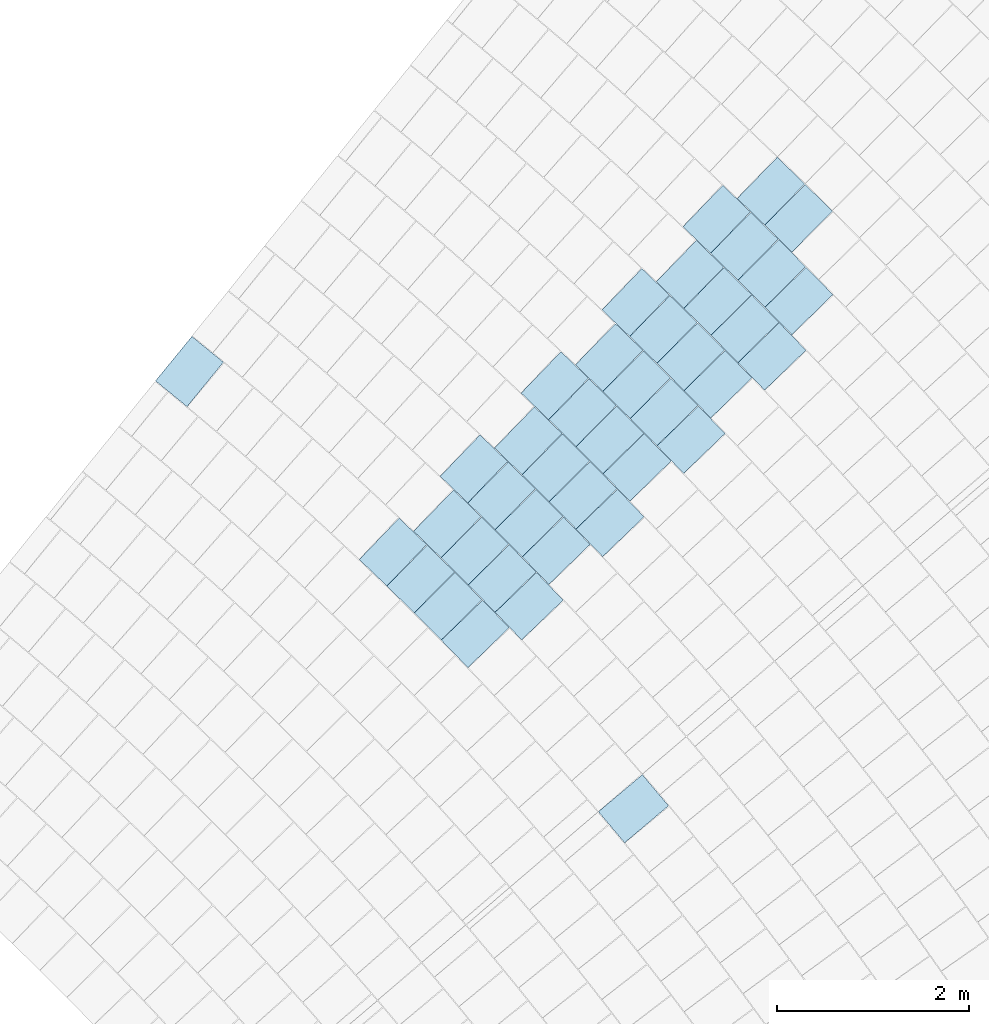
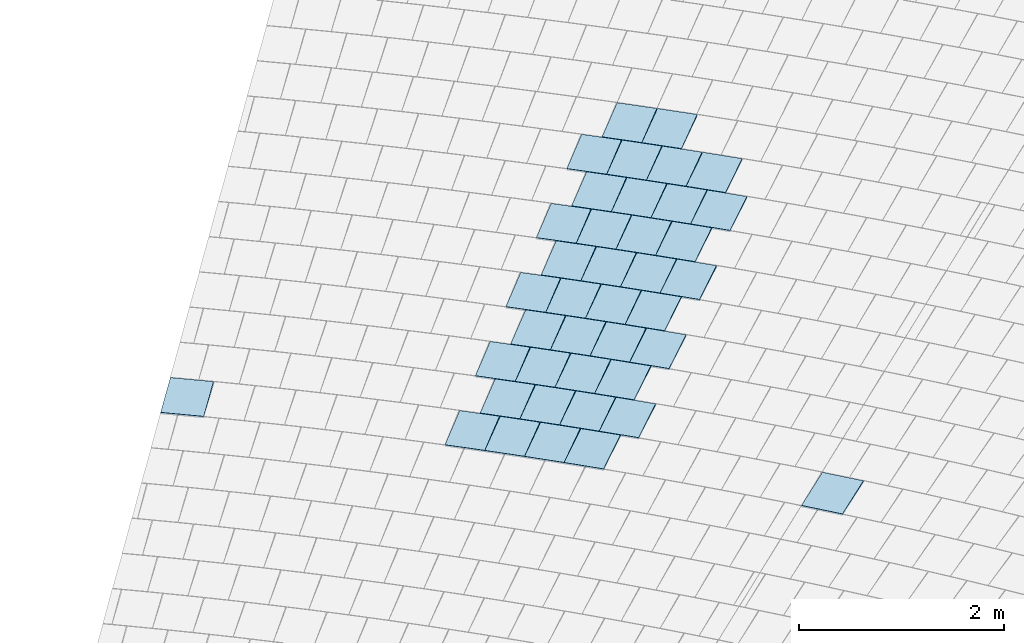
# One storey, part 13 of 438: 40 slabs.
"""IFC2X3 building model written with IfcOpenShell, lengths in millimetres."""

from ifc_helpers import new_model, entity, si_unit, converted_unit, derived_unit, direction, frame, origin, place, context, subcontext, project, spatial, polyline, outline, extrude, material, layer, layer_set, layer_usage, type_object, element, save


model = new_model("IFC2X3")

# Units and contexts
model_context = context("Model", 3, precision=0.01, world=origin(), true_north=direction((6.123031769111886e-17, 1.0)))
body_context = subcontext(model_context, "Body", "Model", "MODEL_VIEW")
ifc_project = project(units=[si_unit("LENGTHUNIT", "METRE", prefix="MILLI"), si_unit("AREAUNIT", "SQUARE_METRE"), si_unit("VOLUMEUNIT", "CUBIC_METRE"), converted_unit("PLANEANGLEUNIT", "DEGREE", entity("IfcRatioMeasure", 0.017453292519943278), si_unit("PLANEANGLEUNIT", "RADIAN"), dimensions=[0, 0, 0, 0, 0, 0, 0]), si_unit("MASSUNIT", "GRAM", prefix="KILO"), derived_unit("MASSDENSITYUNIT", [(si_unit("MASSUNIT", "GRAM", prefix="KILO"), 1), (si_unit("LENGTHUNIT", "METRE"), -3)]), derived_unit("MOMENTOFINERTIAUNIT", [(si_unit("LENGTHUNIT", "METRE"), 4)]), si_unit("TIMEUNIT", "SECOND"), si_unit("FREQUENCYUNIT", "HERTZ"), si_unit("THERMODYNAMICTEMPERATUREUNIT", "DEGREE_CELSIUS"), derived_unit("THERMALTRANSMITTANCEUNIT", [(si_unit("MASSUNIT", "GRAM", prefix="KILO"), 1), (si_unit("THERMODYNAMICTEMPERATUREUNIT", "KELVIN"), -1), (si_unit("TIMEUNIT", "SECOND"), -3)]), derived_unit("THERMALCONDUCTANCEUNIT", [(si_unit("MASSUNIT", "GRAM", prefix="KILO"), 1), (si_unit("LENGTHUNIT", "METRE"), 1), (si_unit("THERMODYNAMICTEMPERATUREUNIT", "KELVIN"), -1), (si_unit("TIMEUNIT", "SECOND"), -3)]), derived_unit("VOLUMETRICFLOWRATEUNIT", [(si_unit("LENGTHUNIT", "METRE"), 3), (si_unit("TIMEUNIT", "SECOND"), -1)]), derived_unit("MASSFLOWRATEUNIT", [(si_unit("MASSUNIT", "GRAM", prefix="KILO"), 1), (si_unit("TIMEUNIT", "SECOND"), -1)]), derived_unit("ROTATIONALFREQUENCYUNIT", [(si_unit("TIMEUNIT", "SECOND"), -1)]), si_unit("ELECTRICCURRENTUNIT", "AMPERE"), si_unit("ELECTRICVOLTAGEUNIT", "VOLT"), si_unit("POWERUNIT", "WATT"), converted_unit("FORCEUNIT", "KIP", entity("IfcRatioMeasure", 2.088543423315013e-05), si_unit("FORCEUNIT", "NEWTON"), dimensions=[1, 1, -2, 0, 0, 0, 0]), si_unit("ILLUMINANCEUNIT", "LUX"), si_unit("LUMINOUSFLUXUNIT", "LUMEN"), si_unit("LUMINOUSINTENSITYUNIT", "CANDELA"), derived_unit("USERDEFINED", [(si_unit("MASSUNIT", "GRAM", prefix="KILO"), -1), (si_unit("LENGTHUNIT", "METRE"), -2), (si_unit("TIMEUNIT", "SECOND"), 3), (si_unit("LUMINOUSFLUXUNIT", "LUMEN"), 1)]), derived_unit("USERDEFINED", [(si_unit("MASSUNIT", "GRAM", prefix="KILO"), 1), (si_unit("LENGTHUNIT", "METRE"), 3), (si_unit("TIMEUNIT", "SECOND"), -3), (si_unit("ELECTRICCURRENTUNIT", "AMPERE"), -2)]), derived_unit("USERDEFINED", [(si_unit("LENGTHUNIT", "METRE"), 2), (si_unit("TIMEUNIT", "SECOND"), -2)]), derived_unit("SOUNDPOWERUNIT", [(si_unit("MASSUNIT", "GRAM", prefix="KILO"), 1), (si_unit("LENGTHUNIT", "METRE"), 2), (si_unit("TIMEUNIT", "SECOND"), -3)]), derived_unit("SOUNDPRESSUREUNIT", [(si_unit("MASSUNIT", "GRAM", prefix="KILO"), 1), (si_unit("LENGTHUNIT", "METRE"), -1), (si_unit("TIMEUNIT", "SECOND"), -2)]), derived_unit("LINEARVELOCITYUNIT", [(si_unit("LENGTHUNIT", "METRE"), 1), (si_unit("TIMEUNIT", "SECOND"), -1)]), si_unit("PRESSUREUNIT", "PASCAL"), derived_unit("USERDEFINED", [(si_unit("LENGTHUNIT", "METRE"), -2), (si_unit("MASSUNIT", "GRAM", prefix="KILO"), 1), (si_unit("TIMEUNIT", "SECOND"), -2)]), derived_unit("LINEARFORCEUNIT", [(si_unit("MASSUNIT", "GRAM", prefix="KILO"), 1), (si_unit("LENGTHUNIT", "METRE"), 1), (si_unit("TIMEUNIT", "SECOND"), -2), (si_unit("LENGTHUNIT", "METRE"), -1)]), derived_unit("PLANARFORCEUNIT", [(si_unit("MASSUNIT", "GRAM", prefix="KILO"), 1), (si_unit("LENGTHUNIT", "METRE"), 1), (si_unit("TIMEUNIT", "SECOND"), -2), (si_unit("LENGTHUNIT", "METRE"), -2)]), derived_unit("SPECIFICHEATCAPACITYUNIT", [(si_unit("LENGTHUNIT", "METRE"), 2), (si_unit("TIMEUNIT", "SECOND"), -2), (si_unit("THERMODYNAMICTEMPERATUREUNIT", "KELVIN"), -1)]), derived_unit("VAPORPERMEABILITYUNIT", [(si_unit("TIMEUNIT", "SECOND"), 1), (si_unit("LENGTHUNIT", "METRE"), -1)]), derived_unit("DYNAMICVISCOSITYUNIT", [(si_unit("MASSUNIT", "GRAM", prefix="KILO"), 1), (si_unit("LENGTHUNIT", "METRE"), -1), (si_unit("TIMEUNIT", "SECOND"), -1)]), derived_unit("THERMALEXPANSIONCOEFFICIENTUNIT", [(si_unit("THERMODYNAMICTEMPERATUREUNIT", "KELVIN"), -1)])], contexts=[model_context])

# Site, building, storey
site_placement = place(None, frame((0.0, 0.0, 0.0), z_axis=(0.0, 0.0, 1.0), x_axis=(0.8191520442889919, 0.5735764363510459, 0.0)))
site = spatial("IfcSite", under=ifc_project, at=site_placement, Name="Default", CompositionType="ELEMENT")
building_placement = place(site_placement, origin())
building = spatial("IfcBuilding", under=site, at=building_placement, CompositionType="ELEMENT")
storey_placement = place(building_placement, origin())
storey = spatial("IfcBuildingStorey", under=building, at=storey_placement, Name="PLAN", CompositionType="ELEMENT", Elevation=0.0)

# Slabs
ifc_material = material(Name="Paint-01")
ifc_layer = layer(ifc_material, 20.00000000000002)
ifc_layer_set = layer_set([ifc_layer], Name="Floor:Slab-179:1000")
ifc_layer_usage = layer_usage(ifc_layer_set, "AXIS3", "POSITIVE", 0.0)
slab_type = type_object("IfcSlabType", Name="Floor:Slab-179:1000", PredefinedType="FLOOR", material=ifc_layer_set)
slab_1_placement = place(storey_placement, origin())
element("IfcSlab", 1, at=slab_1_placement, inside=storey, type_object=slab_type, material=ifc_layer_usage, Name="Floor:Slab-179:1000", ObjectType="Floor:Slab-179:1000", PredefinedType="FLOOR", context=body_context, shape_type="SweptSolid", body=[
    extrude(outline(polyline([(-212.62516405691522, -299.99999869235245), (212.62516724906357, -299.9999986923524), (212.6251640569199, 299.9999986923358), (-212.6251672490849, 299.99999869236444), (-212.62516405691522, -299.99999869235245)])), frame((-6436.931583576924, -58398.42907399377, 520.0), z_axis=(0.0, 0.0, -1.0), x_axis=(0.27089936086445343, -0.9626076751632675, 0.0)), (0.0, 0.0, 1.0), 19.99999999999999),
])
slab_2_placement = place(storey_placement, origin())
element("IfcSlab", 2, at=slab_2_placement, inside=storey, type_object=slab_type, material=ifc_layer_usage, Name="Floor:Slab-179:1000", ObjectType="Floor:Slab-179:1000", PredefinedType="FLOOR", context=body_context, shape_type="SweptSolid", body=[
    extrude(outline(polyline([(-299.99999762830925, -200.00000294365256), (300.0, -200.00000294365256), (299.99999762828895, 200.0000029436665), (-300.0, 200.00000294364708), (-299.99999762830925, -200.00000294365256)])), frame((-2695.0400210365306, -61184.74302440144, 520.0), z_axis=(0.0, 0.0, -1.0), x_axis=(0.9842289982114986, 0.17689906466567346, 0.0)), (0.0, 0.0, 1.0), 20.000000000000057),
])
slab_3_placement = place(storey_placement, origin())
element("IfcSlab", 3, at=slab_3_placement, inside=storey, type_object=slab_type, material=ifc_layer_usage, Name="Floor:Slab-179:1000", ObjectType="Floor:Slab-179:1000", PredefinedType="FLOOR", context=body_context, shape_type="SweptSolid", body=[
    extrude(outline(polyline([(-299.99999762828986, -200.00000294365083), (300.0, -200.00000294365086), (299.9999976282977, 200.00000294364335), (-300.0, 200.00000294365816), (-299.99999762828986, -200.00000294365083)])), frame((-4376.253665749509, -62121.16269402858, 520.0), z_axis=(0.0, 0.0, -1.0), x_axis=(0.9871168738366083, 0.16000086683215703, 0.0)), (0.0, 0.0, 1.0), 20.000000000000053),
])
slab_4_placement = place(storey_placement, origin())
element("IfcSlab", 4, at=slab_4_placement, inside=storey, type_object=slab_type, material=ifc_layer_usage, Name="Floor:Slab-179:1000", ObjectType="Floor:Slab-179:1000", PredefinedType="FLOOR", context=body_context, shape_type="SweptSolid", body=[
    extrude(outline(polyline([(-200.00000134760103, -299.99999869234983), (200.00000453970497, -299.99999869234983), (200.00000134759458, 299.99999869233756), (-200.00000453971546, 299.99999869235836), (-200.00000134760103, -299.99999869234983)])), frame((-1023.793040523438, -60250.58536547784, 520.0), z_axis=(0.0, 0.0, -1.0), x_axis=(0.19220898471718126, -0.9813540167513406, 0.0)), (0.0, 0.0, 1.0), 19.999999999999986),
])
slab_5_placement = place(storey_placement, origin())
element("IfcSlab", 5, at=slab_5_placement, inside=storey, type_object=slab_type, material=ifc_layer_usage, Name="Floor:Slab-179:1000", ObjectType="Floor:Slab-179:1000", PredefinedType="FLOOR", context=body_context, shape_type="SweptSolid", body=[
    extrude(outline(polyline([(-200.00000134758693, -299.99999869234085), (200.00000453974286, -299.99999869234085), (200.00000134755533, 299.99999869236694), (-200.00000453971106, 299.9999986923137), (-200.00000134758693, -299.99999869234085)])), frame((-2212.4112910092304, -60477.13663894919, 520.0), z_axis=(0.0, 0.0, -1.0), x_axis=(0.19236404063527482, -0.981323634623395, 0.0)), (0.0, 0.0, 1.0), 20.000000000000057),
])
slab_6_placement = place(storey_placement, origin())
element("IfcSlab", 6, at=slab_6_placement, inside=storey, type_object=slab_type, material=ifc_layer_usage, Name="Floor:Slab-179:1000", ObjectType="Floor:Slab-179:1000", PredefinedType="FLOOR", context=body_context, shape_type="SweptSolid", body=[
    extrude(outline(polyline([(-200.00000134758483, -299.999998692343), (200.00000453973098, -299.999998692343), (200.00000134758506, 299.99999869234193), (-200.00000453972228, 299.9999986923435), (-200.00000134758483, -299.999998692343)])), frame((-5702.726382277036, -61553.0666909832, 520.0), z_axis=(0.0, 0.0, -1.0), x_axis=(0.18163691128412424, -0.9833656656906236, 0.0)), (0.0, 0.0, 1.0), 20.000000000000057),
])
slab_7_placement = place(storey_placement, origin())
element("IfcSlab", 7, at=slab_7_placement, inside=storey, type_object=slab_type, material=ifc_layer_usage, Name="Floor:Slab-179:1000", ObjectType="Floor:Slab-179:1000", PredefinedType="FLOOR", context=body_context, shape_type="SweptSolid", body=[
    extrude(outline(polyline([(-200.00000134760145, -299.99999869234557), (200.00000453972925, -299.99999869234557), (200.00000134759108, 299.99999869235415), (-200.00000453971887, 299.99999869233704), (-200.00000134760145, -299.99999869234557)])), frame((-4514.1243067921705, -61326.412000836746, 520.0), z_axis=(0.0, 0.0, -1.0), x_axis=(0.18182568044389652, -0.9833307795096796, 0.0)), (0.0, 0.0, 1.0), 20.000000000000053),
])
slab_8_placement = place(storey_placement, origin())
element("IfcSlab", 8, at=slab_8_placement, inside=storey, type_object=slab_type, material=ifc_layer_usage, Name="Floor:Slab-179:1000", ObjectType="Floor:Slab-179:1000", PredefinedType="FLOOR", context=body_context, shape_type="SweptSolid", body=[
    extrude(outline(polyline([(-200.00000134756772, -299.99999869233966), (200.00000453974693, -299.99999869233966), (200.00000134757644, 299.99999869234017), (-200.00000453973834, 299.99999869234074), (-200.00000134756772, -299.99999869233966)])), frame((-3957.043206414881, -61014.919384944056, 520.0), z_axis=(0.0, 0.0, -1.0), x_axis=(0.1872683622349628, -0.9823087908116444, 0.0)), (0.0, 0.0, 1.0), 20.000000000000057),
])
slab_9_placement = place(storey_placement, origin())
element("IfcSlab", 9, at=slab_9_placement, inside=storey, type_object=slab_type, material=ifc_layer_usage, Name="Floor:Slab-179:1000", ObjectType="Floor:Slab-179:1000", PredefinedType="FLOOR", context=body_context, shape_type="SweptSolid", body=[
    extrude(outline(polyline([(-200.00000134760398, -299.99999869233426), (200.00000453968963, -299.9999986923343), (200.0000013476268, 299.9999986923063), (-200.00000453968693, 299.9999986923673), (-200.00000134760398, -299.99999869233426)])), frame((-2136.9217982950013, -60873.113788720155, 520.0), z_axis=(0.0, 0.0, -1.0), x_axis=(0.1821676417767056, -0.9832674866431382, 0.0)), (0.0, 0.0, 1.0), 19.999999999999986),
])
slab_10_placement = place(storey_placement, origin())
element("IfcSlab", 10, at=slab_10_placement, inside=storey, type_object=slab_type, material=ifc_layer_usage, Name="Floor:Slab-179:1000", ObjectType="Floor:Slab-179:1000", PredefinedType="FLOOR", context=body_context, shape_type="SweptSolid", body=[
    extrude(outline(polyline([(-200.00000134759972, -299.999998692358), (200.00000453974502, -299.999998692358), (200.00000134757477, 299.99999869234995), (-200.00000453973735, 299.9999986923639), (-200.00000134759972, -299.999998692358)])), frame((-2768.449569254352, -60788.32466810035, 520.0), z_axis=(0.0, 0.0, -1.0), x_axis=(0.1872683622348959, -0.9823087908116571, 0.0)), (0.0, 0.0, 1.0), 20.000000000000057),
])
slab_11_placement = place(storey_placement, origin())
element("IfcSlab", 11, at=slab_11_placement, inside=storey, type_object=slab_type, material=ifc_layer_usage, Name="Floor:Slab-179:1000", ObjectType="Floor:Slab-179:1000", PredefinedType="FLOOR", context=body_context, shape_type="SweptSolid", body=[
    extrude(outline(polyline([(-200.00000134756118, -299.9999986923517), (200.00000453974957, -299.99999869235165), (200.00000134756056, 299.9999986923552), (-200.00000453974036, 299.99999869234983), (-200.00000134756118, -299.9999986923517)])), frame((-1579.8559320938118, -60561.7299512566, 520.0), z_axis=(0.0, 0.0, -1.0), x_axis=(0.1872683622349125, -0.9823087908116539, 0.0)), (0.0, 0.0, 1.0), 20.000000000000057),
])
slab_12_placement = place(storey_placement, origin())
element("IfcSlab", 12, at=slab_12_placement, inside=storey, type_object=slab_type, material=ifc_layer_usage, Name="Floor:Slab-179:1000", ObjectType="Floor:Slab-179:1000", PredefinedType="FLOOR", context=body_context, shape_type="SweptSolid", body=[
    extrude(outline(polyline([(-200.0000013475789, -299.9999986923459), (200.00000453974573, -299.9999986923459), (200.00000134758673, 299.9999986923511), (-200.00000453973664, 299.9999986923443), (-200.0000013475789, -299.9999986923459)])), frame((-948.3212409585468, -60646.46970904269, 520.0), z_axis=(0.0, 0.0, -1.0), x_axis=(0.18232299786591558, -0.983238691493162, 0.0)), (0.0, 0.0, 1.0), 20.000000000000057),
])
slab_13_placement = place(storey_placement, origin())
element("IfcSlab", 13, at=slab_13_placement, inside=storey, type_object=slab_type, material=ifc_layer_usage, Name="Floor:Slab-179:1000", ObjectType="Floor:Slab-179:1000", PredefinedType="FLOOR", context=body_context, shape_type="SweptSolid", body=[
    extrude(outline(polyline([(-200.0000013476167, -299.99999869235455), (200.00000453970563, -299.99999869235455), (200.00000134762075, 299.9999986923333), (-200.00000453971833, 299.99999869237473), (-200.0000013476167, -299.99999869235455)])), frame((-5145.636843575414, -61241.514101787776, 520.0), z_axis=(0.0, 0.0, -1.0), x_axis=(0.18726836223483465, -0.9823087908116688, 0.0)), (0.0, 0.0, 1.0), 19.999999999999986),
])
slab_14_placement = place(storey_placement, origin())
element("IfcSlab", 14, at=slab_14_placement, inside=storey, type_object=slab_type, material=ifc_layer_usage, Name="Floor:Slab-179:1000", ObjectType="Floor:Slab-179:1000", PredefinedType="FLOOR", context=body_context, shape_type="SweptSolid", body=[
    extrude(outline(polyline([(-200.00000134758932, -299.99999869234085), (200.0000045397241, -299.99999869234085), (200.00000134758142, 299.9999986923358), (-200.00000453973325, 299.9999986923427), (-200.00000134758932, -299.99999869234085)])), frame((-391.2622949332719, -60335.1352344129, 520.0), z_axis=(0.0, 0.0, -1.0), x_axis=(0.1872683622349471, -0.9823087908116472, 0.0)), (0.0, 0.0, 1.0), 20.000000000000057),
])
slab_15_placement = place(storey_placement, origin())
element("IfcSlab", 15, at=slab_15_placement, inside=storey, type_object=slab_type, material=ifc_layer_usage, Name="Floor:Slab-179:1000", ObjectType="Floor:Slab-179:1000", PredefinedType="FLOOR", context=body_context, shape_type="SweptSolid", body=[
    extrude(outline(polyline([(-299.9999976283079, -200.00000294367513), (300.0, -200.0000029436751), (299.99999762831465, 200.00000294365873), (-300.0, 200.00000294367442), (-299.9999976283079, -200.00000294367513)])), frame((-3883.683639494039, -61411.45263095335, 520.0), z_axis=(0.0, 0.0, -1.0), x_axis=(0.9842904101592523, 0.17655704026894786, 0.0)), (0.0, 0.0, 1.0), 20.000000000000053),
])
slab_16_placement = place(storey_placement, origin())
element("IfcSlab", 16, at=slab_16_placement, inside=storey, type_object=slab_type, material=ifc_layer_usage, Name="Floor:Slab-179:1000", ObjectType="Floor:Slab-179:1000", PredefinedType="FLOOR", context=body_context, shape_type="SweptSolid", body=[
    extrude(outline(polyline([(-299.99999762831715, -200.00000294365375), (300.0, -200.0000029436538), (299.99999762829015, 200.0000029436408), (-300.0, 200.00000294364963), (-299.99999762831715, -200.00000294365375)])), frame((-4939.145011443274, -62433.83318821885, 520.0), z_axis=(0.0, 0.0, -1.0), x_axis=(0.9880751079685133, 0.15397266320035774, 0.0)), (0.0, 0.0, 1.0), 20.000000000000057),
])
slab_17_placement = place(storey_placement, origin())
element("IfcSlab", 17, at=slab_17_placement, inside=storey, type_object=slab_type, material=ifc_layer_usage, Name="Floor:Slab-179:1000", ObjectType="Floor:Slab-179:1000", PredefinedType="FLOOR", context=body_context, shape_type="SweptSolid", body=[
    extrude(outline(polyline([(-299.99999762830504, -200.0000029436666), (300.0, -200.0000029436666), (299.99999762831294, 200.00000294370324), (-300.0, 200.00000294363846), (-299.99999762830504, -200.0000029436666)])), frame((-317.7618792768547, -60731.34443782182, 520.0), z_axis=(0.0, 0.0, -1.0), x_axis=(0.9841169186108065, 0.1775215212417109, 0.0)), (0.0, 0.0, 1.0), 19.99999999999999),
])
slab_18_placement = place(storey_placement, origin())
element("IfcSlab", 18, at=slab_18_placement, inside=storey, type_object=slab_type, material=ifc_layer_usage, Name="Floor:Slab-179:1000", ObjectType="Floor:Slab-179:1000", PredefinedType="FLOOR", context=body_context, shape_type="SweptSolid", body=[
    extrude(outline(polyline([(-200.0000013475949, -299.9999986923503), (200.00000453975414, -299.9999986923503), (200.00000134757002, 299.9999986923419), (-200.00000453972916, 299.99999869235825), (-200.0000013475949, -299.9999986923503)])), frame((-3325.5227963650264, -61099.76115675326, 520.0), z_axis=(0.0, 0.0, -1.0), x_axis=(0.18200220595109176, -0.9832981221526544, 0.0)), (0.0, 0.0, 1.0), 19.999999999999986),
])
slab_19_placement = place(storey_placement, origin())
element("IfcSlab", 19, at=slab_19_placement, inside=storey, type_object=slab_type, material=ifc_layer_usage, Name="Floor:Slab-179:1000", ObjectType="Floor:Slab-179:1000", PredefinedType="FLOOR", context=body_context, shape_type="SweptSolid", body=[
    extrude(outline(polyline([(-299.999997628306, -200.00000294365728), (300.0, -200.00000294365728), (299.9999976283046, 200.00000294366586), (-300.0, 200.00000294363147), (-299.999997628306, -200.00000294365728)])), frame((-3187.260817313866, -61894.22680186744, 520.0), z_axis=(0.0, 0.0, -1.0), x_axis=(0.9869728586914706, 0.16088684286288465, 0.0)), (0.0, 0.0, 1.0), 20.000000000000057),
])
slab_20_placement = place(storey_placement, origin())
element("IfcSlab", 20, at=slab_20_placement, inside=storey, type_object=slab_type, material=ifc_layer_usage, Name="Floor:Slab-179:1000", ObjectType="Floor:Slab-179:1000", PredefinedType="FLOOR", context=body_context, shape_type="SweptSolid", body=[
    extrude(outline(polyline([(-299.9999976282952, -200.00000294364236), (300.0, -200.00000294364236), (299.99999762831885, 200.00000294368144), (-300.0, 200.00000294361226), (-299.9999976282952, -200.00000294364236)])), frame((-5003.497186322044, -62035.626552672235, 520.0), z_axis=(0.0, 0.0, -1.0), x_axis=(0.9862780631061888, 0.16509264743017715, 0.0)), (0.0, 0.0, 1.0), 20.000000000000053),
])
slab_21_placement = place(storey_placement, origin())
element("IfcSlab", 21, at=slab_21_placement, inside=storey, type_object=slab_type, material=ifc_layer_usage, Name="Floor:Slab-179:1000", ObjectType="Floor:Slab-179:1000", PredefinedType="FLOOR", context=body_context, shape_type="SweptSolid", body=[
    extrude(outline(polyline([(-299.99999762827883, -200.0000029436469), (300.0, -200.0000029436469), (299.99999762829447, 200.00000294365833), (-300.0, 200.00000294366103), (-299.99999762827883, -200.0000029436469)])), frame((-2625.8149647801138, -61581.913472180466, 520.0), z_axis=(0.0, 0.0, -1.0), x_axis=(0.9860397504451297, 0.16651009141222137, 0.0)), (0.0, 0.0, 1.0), 19.99999999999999),
])
slab_22_placement = place(storey_placement, origin())
element("IfcSlab", 22, at=slab_22_placement, inside=storey, type_object=slab_type, material=ifc_layer_usage, Name="Floor:Slab-179:1000", ObjectType="Floor:Slab-179:1000", PredefinedType="FLOOR", context=body_context, shape_type="SweptSolid", body=[
    extrude(outline(polyline([(-299.99999762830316, -200.00000294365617), (300.0, -200.00000294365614), (299.99999762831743, 200.00000294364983), (-300.0, 200.00000294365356), (-299.99999762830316, -200.00000294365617)])), frame((-5631.722679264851, -61950.200520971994, 520.0), z_axis=(0.0, 0.0, -1.0), x_axis=(0.9853825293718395, 0.17035630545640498, 0.0)), (0.0, 0.0, 1.0), 20.000000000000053),
])
slab_23_placement = place(storey_placement, origin())
element("IfcSlab", 23, at=slab_23_placement, inside=storey, type_object=slab_type, material=ifc_layer_usage, Name="Floor:Slab-179:1000", ObjectType="Floor:Slab-179:1000", PredefinedType="FLOOR", context=body_context, shape_type="SweptSolid", body=[
    extrude(outline(polyline([(-299.9999976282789, -200.00000294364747), (300.0, -200.00000294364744), (299.99999762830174, 200.0000029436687), (-300.0, 200.0000029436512), (-299.9999976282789, -200.00000294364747)])), frame((-5565.274514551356, -62348.121925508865, 520.0), z_axis=(0.0, 0.0, -1.0), x_axis=(0.987269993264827, 0.15905332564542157, 0.0)), (0.0, 0.0, 1.0), 19.99999999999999),
])
slab_24_placement = place(storey_placement, origin())
element("IfcSlab", 24, at=slab_24_placement, inside=storey, type_object=slab_type, material=ifc_layer_usage, Name="Floor:Slab-179:1000", ObjectType="Floor:Slab-179:1000", PredefinedType="FLOOR", context=body_context, shape_type="SweptSolid", body=[
    extrude(outline(polyline([(-200.0000013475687, -299.9999986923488), (200.00000453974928, -299.99999869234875), (200.00000134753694, 299.99999869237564), (-200.00000453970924, 299.99999869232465), (-200.0000013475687, -299.9999986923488)])), frame((-5778.276298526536, -61156.772591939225, 520.0), z_axis=(0.0, 0.0, -1.0), x_axis=(0.19289366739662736, -0.981219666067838, 0.0)), (0.0, 0.0, 1.0), 20.000000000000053),
])
slab_25_placement = place(storey_placement, origin())
element("IfcSlab", 25, at=slab_25_placement, inside=storey, type_object=slab_type, material=ifc_layer_usage, Name="Floor:Slab-179:1000", ObjectType="Floor:Slab-179:1000", PredefinedType="FLOOR", context=body_context, shape_type="SweptSolid", body=[
    extrude(outline(polyline([(-299.999997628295, -200.00000294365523), (300.0, -200.00000294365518), (299.9999976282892, 200.00000294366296), (-300.0, 200.00000294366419), (-299.999997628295, -200.00000294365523)])), frame((-5072.330708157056, -61638.17004778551, 520.0), z_axis=(0.0, 0.0, -1.0), x_axis=(0.9843558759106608, 0.17619168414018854, 0.0)), (0.0, 0.0, 1.0), 20.000000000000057),
])
slab_26_placement = place(storey_placement, origin())
element("IfcSlab", 26, at=slab_26_placement, inside=storey, type_object=slab_type, material=ifc_layer_usage, Name="Floor:Slab-179:1000", ObjectType="Floor:Slab-179:1000", PredefinedType="FLOOR", context=body_context, shape_type="SweptSolid", body=[
    extrude(outline(polyline([(-299.99999762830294, -200.00000294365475), (300.0, -200.00000294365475), (299.99999762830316, 200.00000294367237), (-300.0, 200.00000294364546), (-299.99999762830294, -200.00000294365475)])), frame((-4442.988374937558, -61723.405594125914, 520.0), z_axis=(0.0, 0.0, -1.0), x_axis=(0.9852842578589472, 0.1709237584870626, 0.0)), (0.0, 0.0, 1.0), 19.999999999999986),
])
slab_27_placement = place(storey_placement, origin())
element("IfcSlab", 27, at=slab_27_placement, inside=storey, type_object=slab_type, material=ifc_layer_usage, Name="Floor:Slab-179:1000", ObjectType="Floor:Slab-179:1000", PredefinedType="FLOOR", context=body_context, shape_type="SweptSolid", body=[
    extrude(outline(polyline([(-200.00000134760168, -299.99999869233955), (200.00000453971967, -299.99999869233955), (200.00000134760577, 299.9999986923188), (-200.00000453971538, 299.99999869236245), (-200.00000134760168, -299.99999869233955)])), frame((-4589.652734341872, -60930.230617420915, 520.0), z_axis=(0.0, 0.0, -1.0), x_axis=(0.1927053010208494, -0.9812566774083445, 0.0)), (0.0, 0.0, 1.0), 20.000000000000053),
])
slab_28_placement = place(storey_placement, origin())
element("IfcSlab", 28, at=slab_28_placement, inside=storey, type_object=slab_type, material=ifc_layer_usage, Name="Floor:Slab-179:1000", ObjectType="Floor:Slab-179:1000", PredefinedType="FLOOR", context=body_context, shape_type="SweptSolid", body=[
    extrude(outline(polyline([(-299.99999762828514, -200.00000294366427), (300.0, -200.00000294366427), (299.9999976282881, 200.00000294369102), (-300.0, 200.00000294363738), (-299.99999762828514, -200.00000294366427)])), frame((-3749.9439740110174, -62206.7986956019, 520.0), z_axis=(0.0, 0.0, -1.0), x_axis=(0.987903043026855, 0.15507281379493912, 0.0)), (0.0, 0.0, 1.0), 20.000000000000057),
])
slab_29_placement = place(storey_placement, origin())
element("IfcSlab", 29, at=slab_29_placement, inside=storey, type_object=slab_type, material=ifc_layer_usage, Name="Floor:Slab-179:1000", ObjectType="Floor:Slab-179:1000", PredefinedType="FLOOR", context=body_context, shape_type="SweptSolid", body=[
    extrude(outline(polyline([(-299.99999762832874, -200.00000294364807), (300.0, -200.00000294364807), (299.9999976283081, 200.00000294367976), (-300.0, 200.00000294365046), (-299.99999762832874, -200.00000294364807)])), frame((-3814.6478315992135, -61808.76144849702, 520.0), z_axis=(0.0, 0.0, -1.0), x_axis=(0.9861552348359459, 0.16582476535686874, 0.0)), (0.0, 0.0, 1.0), 19.99999999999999),
])
slab_30_placement = place(storey_placement, origin())
element("IfcSlab", 30, at=slab_30_placement, inside=storey, type_object=slab_type, material=ifc_layer_usage, Name="Floor:Slab-179:1000", ObjectType="Floor:Slab-179:1000", PredefinedType="FLOOR", context=body_context, shape_type="SweptSolid", body=[
    extrude(outline(polyline([(-299.9999976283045, -200.0000029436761), (300.0, -200.0000029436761), (299.9999976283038, 200.00000294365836), (-300.0, 200.00000294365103), (-299.9999976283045, -200.0000029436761)])), frame((-3254.263298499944, -61496.623553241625, 520.0), z_axis=(0.0, 0.0, -1.0), x_axis=(0.9851920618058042, 0.17145437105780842, 0.0)), (0.0, 0.0, 1.0), 20.000000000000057),
])
slab_31_placement = place(storey_placement, origin())
element("IfcSlab", 31, at=slab_31_placement, inside=storey, type_object=slab_type, material=ifc_layer_usage, Name="Floor:Slab-179:1000", ObjectType="Floor:Slab-179:1000", PredefinedType="FLOOR", context=body_context, shape_type="SweptSolid", body=[
    extrude(outline(polyline([(-200.0000013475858, -299.9999986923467), (200.00000453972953, -299.99999869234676), (200.00000134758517, 299.9999986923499), (-200.0000045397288, 299.999998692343), (-200.0000013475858, -299.9999986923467)])), frame((-3401.0311263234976, -60703.68519445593, 520.0), z_axis=(0.0, 0.0, -1.0), x_axis=(0.1925291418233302, -0.9812912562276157, 0.0)), (0.0, 0.0, 1.0), 20.000000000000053),
])
slab_32_placement = place(storey_placement, origin())
element("IfcSlab", 32, at=slab_32_placement, inside=storey, type_object=slab_type, material=ifc_layer_usage, Name="Floor:Slab-179:1000", ObjectType="Floor:Slab-179:1000", PredefinedType="FLOOR", context=body_context, shape_type="SweptSolid", body=[
    extrude(outline(polyline([(-299.99999762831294, -200.00000294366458), (300.0, -200.00000294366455), (299.9999976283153, 200.00000294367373), (-300.0, 200.00000294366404), (-299.99999762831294, -200.00000294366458)])), frame((-2560.7820985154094, -61979.79184468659, 520.0), z_axis=(0.0, 0.0, -1.0), x_axis=(0.9877408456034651, 0.15610260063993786, 0.0)), (0.0, 0.0, 1.0), 20.000000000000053),
])
slab_33_placement = place(storey_placement, origin())
element("IfcSlab", 33, at=slab_33_placement, inside=storey, type_object=slab_type, material=ifc_layer_usage, Name="Floor:Slab-179:1000", ObjectType="Floor:Slab-179:1000", PredefinedType="FLOOR", context=body_context, shape_type="SweptSolid", body=[
    extrude(outline(polyline([(-299.9999976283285, -200.00000294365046), (300.0, -200.0000029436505), (299.9999976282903, 200.00000294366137), (-300.0, 200.00000294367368), (-299.9999976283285, -200.00000294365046)])), frame((-2065.546572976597, -61269.853181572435, 520.0), z_axis=(0.0, 0.0, -1.0), x_axis=(0.9851053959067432, 0.17195161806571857, 0.0)), (0.0, 0.0, 1.0), 20.000000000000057),
])
slab_34_placement = place(storey_placement, origin())
element("IfcSlab", 34, at=slab_34_placement, inside=storey, type_object=slab_type, material=ifc_layer_usage, Name="Floor:Slab-179:1000", ObjectType="Floor:Slab-179:1000", PredefinedType="FLOOR", context=body_context, shape_type="SweptSolid", body=[
    extrude(outline(polyline([(-299.9999976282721, -200.00000294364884), (300.0, -200.00000294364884), (299.9999976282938, 200.00000294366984), (-300.0, 200.00000294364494), (-299.9999976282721, -200.00000294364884)])), frame((-1371.6557165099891, -61752.81010970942, 520.0), z_axis=(0.0, 0.0, -1.0), x_axis=(0.9875877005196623, 0.15706856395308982, 0.0)), (0.0, 0.0, 1.0), 20.000000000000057),
])
slab_35_placement = place(storey_placement, origin())
element("IfcSlab", 35, at=slab_35_placement, inside=storey, type_object=slab_type, material=ifc_layer_usage, Name="Floor:Slab-179:1000", ObjectType="Floor:Slab-179:1000", PredefinedType="FLOOR", context=body_context, shape_type="SweptSolid", body=[
    extrude(outline(polyline([(-299.9999976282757, -200.0000029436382), (300.0, -200.00000294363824), (299.9999976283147, 200.0000029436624), (-300.0, 200.00000294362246), (-299.9999976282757, -200.0000029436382)])), frame((-1436.9970412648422, -61355.081046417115, 520.0), z_axis=(0.0, 0.0, -1.0), x_axis=(0.985930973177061, 0.1671529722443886, 0.0)), (0.0, 0.0, 1.0), 19.99999999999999),
])
slab_36_placement = place(storey_placement, origin())
element("IfcSlab", 36, at=slab_36_placement, inside=storey, type_object=slab_type, material=ifc_layer_usage, Name="Floor:Slab-179:1000", ObjectType="Floor:Slab-179:1000", PredefinedType="FLOOR", context=body_context, shape_type="SweptSolid", body=[
    extrude(outline(polyline([(-299.99999762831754, -200.00000294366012), (300.0, -200.00000294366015), (299.99999762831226, 200.00000294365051), (-300.0, 200.00000294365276), (-299.99999762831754, -200.00000294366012)])), frame((-1998.2933062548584, -61667.31206594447, 520.0), z_axis=(0.0, 0.0, -1.0), x_axis=(0.9868371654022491, 0.16171706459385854, 0.0)), (0.0, 0.0, 1.0), 20.000000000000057),
])
slab_37_placement = place(storey_placement, origin())
element("IfcSlab", 37, at=slab_37_placement, inside=storey, type_object=slab_type, material=ifc_layer_usage, Name="Floor:Slab-179:1000", ObjectType="Floor:Slab-179:1000", PredefinedType="FLOOR", context=body_context, shape_type="SweptSolid", body=[
    extrude(outline(polyline([(-299.9999976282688, -200.0000029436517), (300.0, -200.0000029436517), (299.99999762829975, 200.00000294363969), (-300.0, 200.0000029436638), (-299.9999976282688, -200.0000029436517)])), frame((-1506.3995291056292, -60958.04050542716, 520.0), z_axis=(0.0, 0.0, -1.0), x_axis=(0.9841712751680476, 0.17721992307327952, 0.0)), (0.0, 0.0, 1.0), 19.99999999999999),
])
slab_38_placement = place(storey_placement, origin())
element("IfcSlab", 38, at=slab_38_placement, inside=storey, type_object=slab_type, material=ifc_layer_usage, Name="Floor:Slab-179:1000", ObjectType="Floor:Slab-179:1000", PredefinedType="FLOOR", context=body_context, shape_type="SweptSolid", body=[
    extrude(outline(polyline([(-299.99999762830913, -200.0000029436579), (300.0, -200.0000029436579), (299.9999976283, 200.00000294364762), (-300.0, 200.00000294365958), (-299.99999762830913, -200.0000029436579)])), frame((-809.3487743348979, -61440.41670400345, 520.0), z_axis=(0.0, 0.0, -1.0), x_axis=(0.9867090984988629, 0.1624966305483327, 0.0)), (0.0, 0.0, 1.0), 19.99999999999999),
])
slab_39_placement = place(storey_placement, origin())
element("IfcSlab", 39, at=slab_39_placement, inside=storey, type_object=slab_type, material=ifc_layer_usage, Name="Floor:Slab-179:1000", ObjectType="Floor:Slab-179:1000", PredefinedType="FLOOR", context=body_context, shape_type="SweptSolid", body=[
    extrude(outline(polyline([(-299.99999762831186, -200.00000294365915), (300.0, -200.00000294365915), (299.99999762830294, 200.00000294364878), (-300.0, 200.00000294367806), (-299.99999762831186, -200.00000294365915)])), frame((-876.8374051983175, -61043.09354747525, 520.0), z_axis=(0.0, 0.0, -1.0), x_axis=(0.9850237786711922, 0.17241854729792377, 0.0)), (0.0, 0.0, 1.0), 20.000000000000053),
])
slab_40_placement = place(storey_placement, origin())
element("IfcSlab", 40, at=slab_40_placement, inside=storey, type_object=slab_type, material=ifc_layer_usage, Name="Floor:Slab-179:1000", ObjectType="Floor:Slab-179:1000", PredefinedType="FLOOR", context=body_context, shape_type="SweptSolid", body=[
    extrude(outline(polyline([(-212.62516405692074, -299.9999986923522), (212.62516724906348, -299.9999986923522), (212.62516405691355, 299.9999986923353), (-212.6251672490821, 299.9999986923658), (-212.62516405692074, -299.9999986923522)])), frame((-5259.23674665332, -64787.407805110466, 520.0), z_axis=(0.0, 0.0, -1.0), x_axis=(0.08940808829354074, -0.9959950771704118, 0.0)), (0.0, 0.0, 1.0), 20.000000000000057),
])

save(model, "model.ifc")
